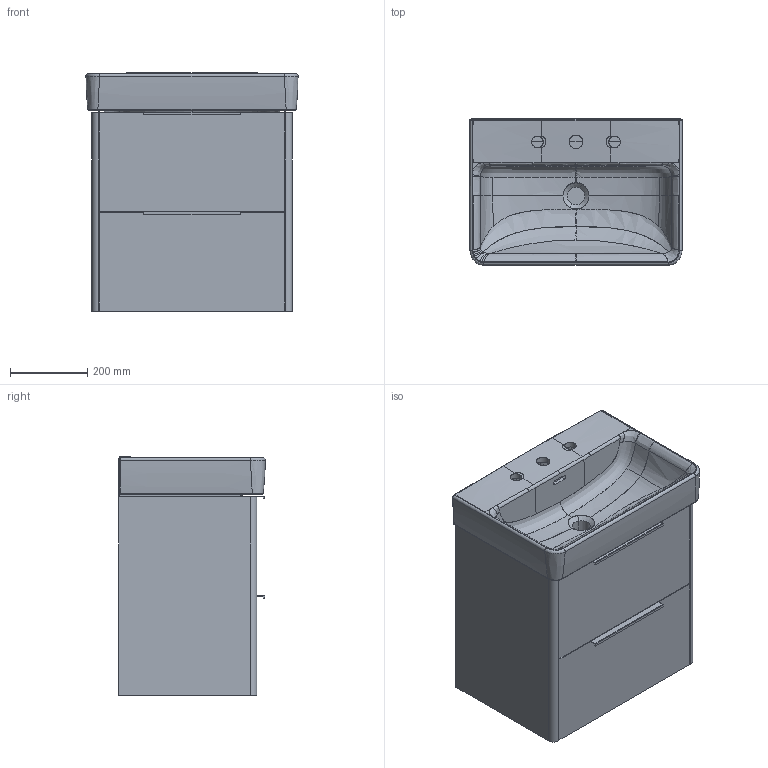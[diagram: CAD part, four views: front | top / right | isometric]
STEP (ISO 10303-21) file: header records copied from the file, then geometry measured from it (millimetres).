
FILE_DESCRIPTION(/* description */ (''),/* implementation_level */ '2;1');
FILE_NAME(/* name */ 'C:\Users\User33\Desktop\Base\3D01_402152.stp',/* time_stamp */ '2018-05-05T14:26:55+02:00',/* author */ ('User33'),/* organization */ (''),/* preprocessor_version */ 'ST-DEVELOPER v16.13',/* originating_system */ 'Autodesk Inventor 2018',/* authorisation */ '');
FILE_SCHEMA (('AUTOMOTIVE_DESIGN { 1 0 10303 214 3 1 1 }'));
Products named in the file (24): Scheletro monoblocco curvo 510; Catena_superiore; Frontale cassetto superiore; Catena inferiore; Fianco sx; Fianco dx; Fondo mobile; Fondo cassetto superiore; Fondo cassetto inferiore; Retro cassetto superiore; Fascia rialzo; Retro_cassetto inferiore; Frontale cassetto inferiore; Maniglia superiore; maniglia inferiore; 270-84; 270-84_1; 270-84_2; 270-84_3; 270-84_MIR; 270-84_1_MIR; 270-84_2_MIR; 270-84_3_MIR; HY18958......1_A
Assembly tree (25 placements, depth 3):
  Scheletro monoblocco curvo 510
    Catena_superiore
    Frontale cassetto superiore
    Catena inferiore
    Fianco sx
    Fianco dx
    Fondo mobile
    Fondo cassetto superiore
    Fondo cassetto inferiore
    Retro cassetto superiore
    Fascia rialzo
    Retro_cassetto inferiore
    Frontale cassetto inferiore
    Maniglia superiore
    maniglia inferiore
    270-84  x2
      270-84_1
      270-84_2
      270-84_3
    270-84_MIR  x2
      270-84_1_MIR
      270-84_2_MIR
      270-84_3_MIR
    HY18958......1_A
Bounding box: 549.94 x 379.97 x 619.54 mm (x, y, z)
Volume: 21147198.6 mm3; surface area: 3983888.3 mm2
Topology: 28 solids, 451 shells, 1370 faces, 5582 edges, 4719 vertices
Faces by surface type: plane 816, bspline 334, cylinder 205, cone 13, torus 2
Full cylindrical faces by diameter (mm): 4 x16, 4.1 x4, 5 x8, 5.1 x4, 6 x8, 6.3 x36
Entity records: 175332 total; most frequent: CARTESIAN_POINT 142636, ORIENTED_EDGE 5763, DIRECTION 4643, EDGE_CURVE 4386, VERTEX_POINT 3955, B_SPLINE_CURVE_WITH_KNOTS 1877, AXIS2_PLACEMENT_3D 1562, LINE 1519
